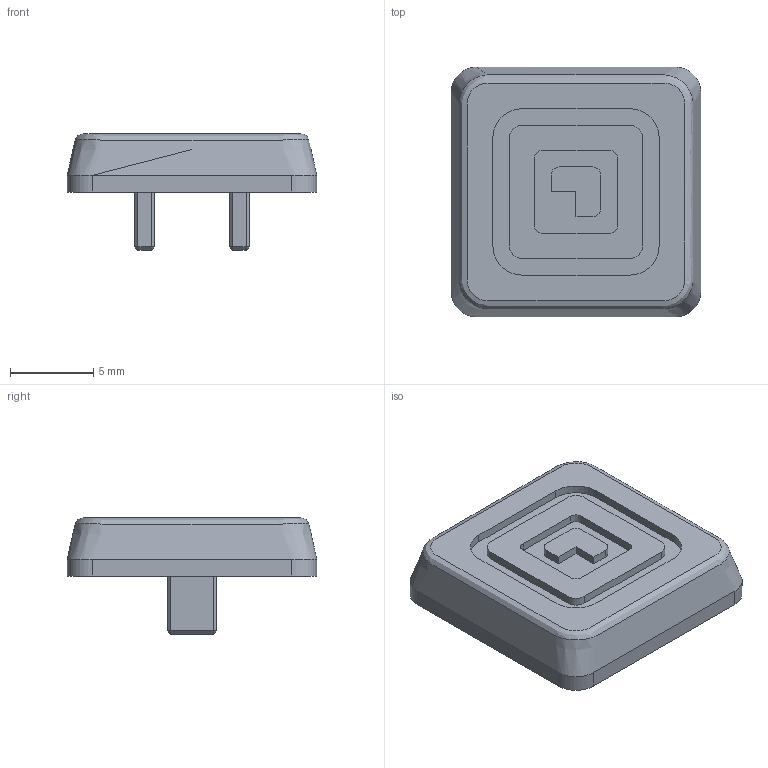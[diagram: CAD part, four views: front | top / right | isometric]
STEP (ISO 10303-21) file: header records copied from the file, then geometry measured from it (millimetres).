
FILE_DESCRIPTION(/* description */ (''),/* implementation_level */ '2;1');
FILE_NAME(/* name */ 'button_up.step',/* time_stamp */ '2026-07-06T12:57:47-05:00',/* author */ (''),/* organization */ (''),/* preprocessor_version */ 'ST-DEVELOPER v20.1',/* originating_system */ 'Autodesk Translation Framework v15.8.0.0',/* authorisation */ '');
FILE_SCHEMA (('AUTOMOTIVE_DESIGN { 1 0 10303 214 3 1 1 }'));
Length unit declared in the file: millimetre
Products named in the file (1): SaturnixLite_Hull
Bounding box: 15 x 15 x 7 mm (x, y, z)
Volume: 641.3 mm3; surface area: 743.9 mm2
Topology: 1 solids, 1 shells, 92 faces, 231 edges, 148 vertices
Faces by surface type: plane 67, cylinder 23, bspline 2
Entity records: 3729 total; most frequent: CARTESIAN_POINT 1480, ORIENTED_EDGE 462, DIRECTION 450, EDGE_CURVE 231, LINE 174, VECTOR 174, VERTEX_POINT 148, AXIS2_PLACEMENT_3D 138
